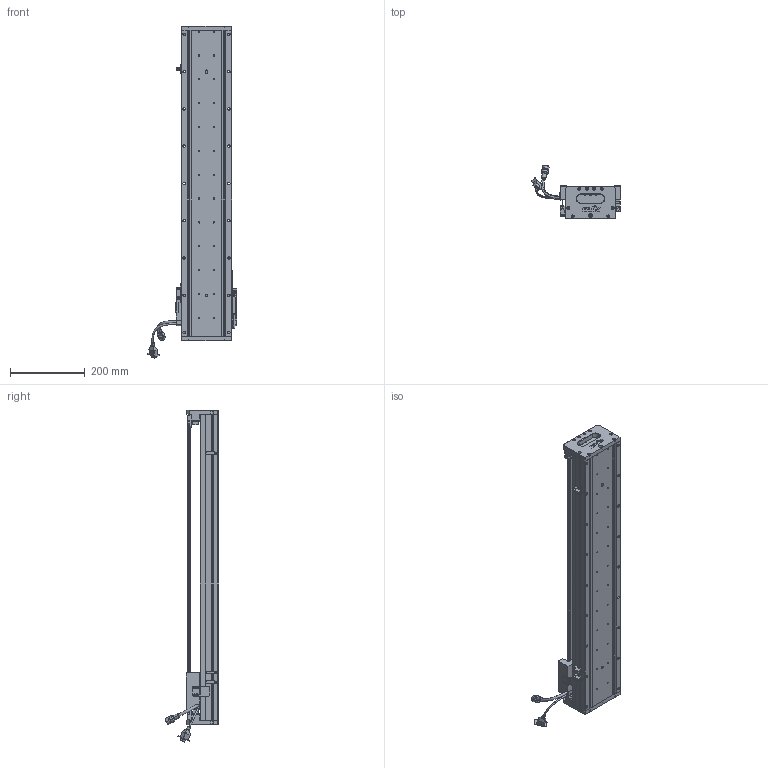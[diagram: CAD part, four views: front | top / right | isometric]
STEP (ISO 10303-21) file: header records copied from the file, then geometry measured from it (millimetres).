
FILE_DESCRIPTION (( 'STEP AP203' ), '1' );
FILE_NAME ('Z1-RY140D-1-L500-B-K.SLDASM_0650.step', '2021-05-17T07:30:51', ( '盈信电脑' ), ( '东莞市道滘镇水果街19号' ), 'SwSTEP 2.0', 'SolidWorks 2016', '' );
FILE_SCHEMA (( 'CONFIG_CONTROL_DESIGN' ));
Length unit declared in the file: millimetre
Products named in the file (36): 140-Z-臏賑輸盄裔(21遴); PSLH080_PSLF2; SCREW-M1.7-1; LABEL-Part-1; Z-140詩湍傷裔啣; SEAL-Part-1; SCALE-Part-2; HARNESS; Z-RY140感应器672光电感应片; Z-RY140詩湍狟揤裔; LABEL; SCREW-M1.7; Z-RY140詩湍奻揤裔; SHIELDPLATE; Z1-RY140-L500直线电机模组底座_0650; SCREW-M1.6-2; SCREW-M1.6-1; COVER-Part-1; SCREW-M1.6; 榋妏寠巭燃_暯_M2_2; HARNESS-Part-2; SCALE-Part-1; Z1-RY140D-1-L500-B-K.SLDASM_0650; HOLDER0; SCALE; 覜茼ん672; PBU_SHEET; Z1-RY140-L500詩湍100mm遵_0650; HARNESS-Part-1; Z1-RY140圉猾敕臏賑輸(21遴); 080黍杅芛假蚾釱21遴; 140蚥薯蝶輸; COVER; SCREW-M1.6-3; 140雄赽晤鎢ん堤盄; SEAL
Assembly tree (41 placements, depth 4):
  Z1-RY140D-1-L500-B-K.SLDASM_0650
    Z1-RY140-L500直线电机模组底座_0650
    Z-RY140感应器672光电感应片
    Z1-RY140圉猾敕臏賑輸(21遴)
    覜茼ん672  x3
    Z1-RY140-L500詩湍100mm遵_0650
    PSLH080_PSLF2
      SCALE
        SCALE-Part-1
        SCALE-Part-2
      HARNESS
        HARNESS-Part-1
        HARNESS-Part-2
      LABEL
        LABEL-Part-1
      COVER
        COVER-Part-1
      SEAL
        SEAL-Part-1
      榋妏寠巭燃_暯_M2_2
      SHIELDPLATE
      SCREW-M1.7
      SCREW-M1.7-1
      PBU_SHEET
      SCREW-M1.6
      SCREW-M1.6-1
      SCREW-M1.6-2
      SCREW-M1.6-3
      HOLDER0
    080黍杅芛假蚾釱21遴
    140-Z-臏賑輸盄裔(21遴)
    Z-140詩湍傷裔啣  x2
    Z-RY140詩湍狟揤裔  x2
    Z-RY140詩湍奻揤裔  x2
    140蚥薯蝶輸  x2
    140雄赽晤鎢ん堤盄
Bounding box: 239.84 x 143.88 x 890.88 mm (x, y, z)
Volume: 3118666.4 mm3; surface area: 840051.1 mm2
Topology: 36 solids, 36 shells, 2782 faces, 7328 edges, 4651 vertices
Faces by surface type: cylinder 1286, plane 1120, cone 254, torus 69, bspline 53
Entity records: 80972 total; most frequent: CARTESIAN_POINT 20497, ORIENTED_EDGE 11840, DIRECTION 11676, EDGE_CURVE 5920, AXIS2_PLACEMENT_3D 4262, VERTEX_POINT 3819, LINE 3152, VECTOR 3152
